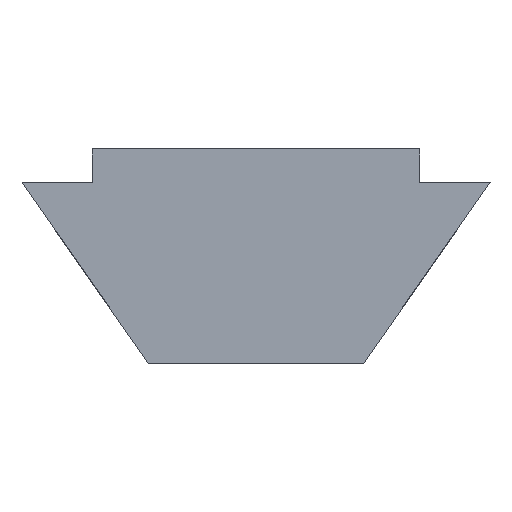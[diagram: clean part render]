
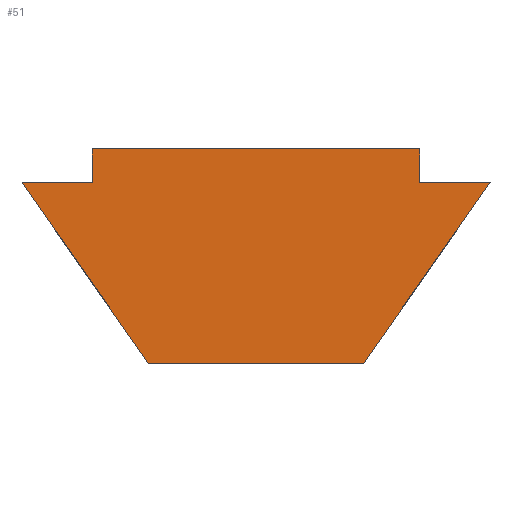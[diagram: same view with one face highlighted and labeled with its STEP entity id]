
A CAD part, left-side view. The second image highlights one B-rep face of the part: STEP entity #51.
In plain terms, the highlighted planar face has unit normal (-1, 0, 0) as drawn and (0, -1, 0) by its records, which use the part's own axes.
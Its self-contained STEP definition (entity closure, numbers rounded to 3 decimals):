
#51=ADVANCED_FACE('',(#77),#975,.T.);
#77=FACE_OUTER_BOUND('',#104,.T.);
#104=EDGE_LOOP('',(#162,#163,#164,#165,#166,#167,#168,#169));
#162=ORIENTED_EDGE('',*,*,#672,.F.);
#163=ORIENTED_EDGE('',*,*,#669,.F.);
#164=ORIENTED_EDGE('',*,*,#664,.F.);
#165=ORIENTED_EDGE('',*,*,#661,.F.);
#166=ORIENTED_EDGE('',*,*,#658,.F.);
#167=ORIENTED_EDGE('',*,*,#655,.F.);
#168=ORIENTED_EDGE('',*,*,#674,.T.);
#169=ORIENTED_EDGE('',*,*,#647,.F.);
#287=PCURVE('',#967,#431);
#296=PCURVE('',#969,#440);
#300=PCURVE('',#970,#444);
#304=PCURVE('',#971,#448);
#308=PCURVE('',#972,#452);
#314=PCURVE('',#973,#458);
#318=PCURVE('',#974,#462);
#322=PCURVE('',#975,#466);
#323=PCURVE('',#975,#467);
#324=PCURVE('',#975,#468);
#325=PCURVE('',#975,#469);
#326=PCURVE('',#975,#470);
#327=PCURVE('',#975,#471);
#328=PCURVE('',#975,#472);
#329=PCURVE('',#975,#473);
#346=PCURVE('',#968,#490);
#431=DEFINITIONAL_REPRESENTATION('',(#724),#1994);
#440=DEFINITIONAL_REPRESENTATION('',(#739),#1994);
#444=DEFINITIONAL_REPRESENTATION('',(#746),#1994);
#448=DEFINITIONAL_REPRESENTATION('',(#753),#1994);
#452=DEFINITIONAL_REPRESENTATION('',(#760),#1994);
#458=DEFINITIONAL_REPRESENTATION('',(#769),#1994);
#462=DEFINITIONAL_REPRESENTATION('',(#776),#1994);
#466=DEFINITIONAL_REPRESENTATION('',(#781),#1994);
#467=DEFINITIONAL_REPRESENTATION('',(#782),#1994);
#468=DEFINITIONAL_REPRESENTATION('',(#783),#1994);
#469=DEFINITIONAL_REPRESENTATION('',(#784),#1994);
#470=DEFINITIONAL_REPRESENTATION('',(#785),#1994);
#471=DEFINITIONAL_REPRESENTATION('',(#786),#1994);
#472=DEFINITIONAL_REPRESENTATION('',(#788),#1994);
#473=DEFINITIONAL_REPRESENTATION('',(#789),#1994);
#490=DEFINITIONAL_REPRESENTATION('',(#806),#1994);
#575=SURFACE_CURVE('',#723,(#287,#329),.PCURVE_S1.);
#583=SURFACE_CURVE('',#738,(#296,#327),.PCURVE_S1.);
#586=SURFACE_CURVE('',#745,(#300,#326),.PCURVE_S1.);
#589=SURFACE_CURVE('',#752,(#304,#325),.PCURVE_S1.);
#592=SURFACE_CURVE('',#759,(#308,#324),.PCURVE_S1.);
#597=SURFACE_CURVE('',#768,(#314,#323),.PCURVE_S1.);
#600=SURFACE_CURVE('',#775,(#318,#322),.PCURVE_S1.);
#602=SURFACE_CURVE('',#787,(#328,#346),.PCURVE_S1.);
#647=EDGE_CURVE('',#915,#916,#575,.T.);
#655=EDGE_CURVE('',#919,#921,#583,.T.);
#658=EDGE_CURVE('',#921,#923,#586,.T.);
#661=EDGE_CURVE('',#923,#925,#589,.T.);
#664=EDGE_CURVE('',#925,#927,#592,.T.);
#669=EDGE_CURVE('',#927,#929,#597,.T.);
#672=EDGE_CURVE('',#929,#915,#600,.T.);
#674=EDGE_CURVE('',#919,#916,#602,.T.);
#723=B_SPLINE_CURVE_WITH_KNOTS('',1,(#1196,#1197),.UNSPECIFIED.,.F.,.F.,
(2,2),(-3.906,0.),.UNSPECIFIED.);
#724=B_SPLINE_CURVE_WITH_KNOTS('',1,(#1198,#1199),.UNSPECIFIED.,.F.,.F.,
(2,2),(-3.906,0.),.UNSPECIFIED.);
#738=B_SPLINE_CURVE_WITH_KNOTS('',1,(#1272,#1273),.UNSPECIFIED.,.F.,.F.,
(2,2),(3.819,7.725),.UNSPECIFIED.);
#739=B_SPLINE_CURVE_WITH_KNOTS('',1,(#1274,#1275),.UNSPECIFIED.,.F.,.F.,
(2,2),(3.819,7.725),.UNSPECIFIED.);
#745=B_SPLINE_CURVE_WITH_KNOTS('',1,(#1286,#1287),.UNSPECIFIED.,.F.,.F.,
(2,2),(7.725,8.975),.UNSPECIFIED.);
#746=B_SPLINE_CURVE_WITH_KNOTS('',1,(#1288,#1289),.UNSPECIFIED.,.F.,.F.,
(2,2),(7.725,8.975),.UNSPECIFIED.);
#752=B_SPLINE_CURVE_WITH_KNOTS('',1,(#1300,#1301),.UNSPECIFIED.,.F.,.F.,
(2,2),(8.975,9.575),.UNSPECIFIED.);
#753=B_SPLINE_CURVE_WITH_KNOTS('',1,(#1302,#1303),.UNSPECIFIED.,.F.,.F.,
(2,2),(8.975,9.575),.UNSPECIFIED.);
#759=B_SPLINE_CURVE_WITH_KNOTS('',1,(#1314,#1315),.UNSPECIFIED.,.F.,.F.,
(2,2),(9.575,15.375),.UNSPECIFIED.);
#760=B_SPLINE_CURVE_WITH_KNOTS('',1,(#1316,#1317),.UNSPECIFIED.,.F.,.F.,
(2,2),(9.575,15.375),.UNSPECIFIED.);
#768=B_SPLINE_CURVE_WITH_KNOTS('',1,(#1388,#1389),.UNSPECIFIED.,.F.,.F.,
(2,2),(15.375,15.975),.UNSPECIFIED.);
#769=B_SPLINE_CURVE_WITH_KNOTS('',1,(#1390,#1391),.UNSPECIFIED.,.F.,.F.,
(2,2),(15.375,15.975),.UNSPECIFIED.);
#775=B_SPLINE_CURVE_WITH_KNOTS('',1,(#1402,#1403),.UNSPECIFIED.,.F.,.F.,
(2,2),(15.975,17.225),.UNSPECIFIED.);
#776=B_SPLINE_CURVE_WITH_KNOTS('',1,(#1404,#1405),.UNSPECIFIED.,.F.,.F.,
(2,2),(15.975,17.225),.UNSPECIFIED.);
#781=B_SPLINE_CURVE_WITH_KNOTS('',1,(#1414,#1415),.UNSPECIFIED.,.F.,.F.,
(2,2),(15.975,17.225),.UNSPECIFIED.);
#782=B_SPLINE_CURVE_WITH_KNOTS('',1,(#1416,#1417),.UNSPECIFIED.,.F.,.F.,
(2,2),(15.375,15.975),.UNSPECIFIED.);
#783=B_SPLINE_CURVE_WITH_KNOTS('',1,(#1418,#1419),.UNSPECIFIED.,.F.,.F.,
(2,2),(9.575,15.375),.UNSPECIFIED.);
#784=B_SPLINE_CURVE_WITH_KNOTS('',1,(#1420,#1421),.UNSPECIFIED.,.F.,.F.,
(2,2),(8.975,9.575),.UNSPECIFIED.);
#785=B_SPLINE_CURVE_WITH_KNOTS('',1,(#1422,#1423),.UNSPECIFIED.,.F.,.F.,
(2,2),(7.725,8.975),.UNSPECIFIED.);
#786=B_SPLINE_CURVE_WITH_KNOTS('',1,(#1424,#1425),.UNSPECIFIED.,.F.,.F.,
(2,2),(3.819,7.725),.UNSPECIFIED.);
#787=B_SPLINE_CURVE_WITH_KNOTS('',1,(#1426,#1427),.UNSPECIFIED.,.F.,.F.,
(2,2),(-3.819,0.),.UNSPECIFIED.);
#788=B_SPLINE_CURVE_WITH_KNOTS('',1,(#1428,#1429),.UNSPECIFIED.,.F.,.F.,
(2,2),(-3.819,0.),.UNSPECIFIED.);
#789=B_SPLINE_CURVE_WITH_KNOTS('',1,(#1430,#1431),.UNSPECIFIED.,.F.,.F.,
(2,2),(-3.906,0.),.UNSPECIFIED.);
#806=B_SPLINE_CURVE_WITH_KNOTS('',1,(#1493,#1494),.UNSPECIFIED.,.F.,.F.,
(2,2),(-3.819,0.),.UNSPECIFIED.);
#915=VERTEX_POINT('',#1126);
#916=VERTEX_POINT('',#1127);
#919=VERTEX_POINT('',#1130);
#921=VERTEX_POINT('',#1132);
#923=VERTEX_POINT('',#1134);
#925=VERTEX_POINT('',#1136);
#927=VERTEX_POINT('',#1138);
#929=VERTEX_POINT('',#1140);
#967=PLANE('',#1028);
#968=PLANE('',#1029);
#969=PLANE('',#1030);
#970=PLANE('',#1031);
#971=PLANE('',#1032);
#972=PLANE('',#1033);
#973=PLANE('',#1034);
#974=PLANE('',#1035);
#975=PLANE('',#1036);
#1028=AXIS2_PLACEMENT_3D('',#1080,#1054,$);
#1029=AXIS2_PLACEMENT_3D('',#1081,#1055,$);
#1030=AXIS2_PLACEMENT_3D('',#1082,#1056,$);
#1031=AXIS2_PLACEMENT_3D('',#1083,#1057,$);
#1032=AXIS2_PLACEMENT_3D('',#1084,#1058,$);
#1033=AXIS2_PLACEMENT_3D('',#1085,#1059,$);
#1034=AXIS2_PLACEMENT_3D('',#1086,#1060,$);
#1035=AXIS2_PLACEMENT_3D('',#1087,#1061,$);
#1036=AXIS2_PLACEMENT_3D('',#1124,#1062,$);
#1054=DIRECTION('',(-0.574,0.,-0.819));
#1055=DIRECTION('',(-1.,0.,0.));
#1056=DIRECTION('',(-0.574,0.,0.819));
#1057=DIRECTION('',(1.,0.,0.));
#1058=DIRECTION('',(0.,0.,1.));
#1059=DIRECTION('',(1.,0.,0.));
#1060=DIRECTION('',(0.,0.,-1.));
#1061=DIRECTION('',(1.,0.,0.));
#1062=DIRECTION('',(0.,-1.,0.));
#1080=CARTESIAN_POINT('',(-0.6,-11.,-4.15));
#1081=CARTESIAN_POINT('',(-3.8,-11.,-1.909));
#1082=CARTESIAN_POINT('',(-3.8,-11.,1.909));
#1083=CARTESIAN_POINT('',(-0.6,-11.,4.15));
#1084=CARTESIAN_POINT('',(-0.6,-11.,2.9));
#1085=CARTESIAN_POINT('',(0.,-11.,2.9));
#1086=CARTESIAN_POINT('',(0.,-11.,-2.9));
#1087=CARTESIAN_POINT('',(-0.6,-11.,-2.9));
#1124=CARTESIAN_POINT('',(-4.275,-11.,5.188));
#1126=CARTESIAN_POINT('',(-0.6,-11.,-4.15));
#1127=CARTESIAN_POINT('',(-3.8,-11.,-1.909));
#1130=CARTESIAN_POINT('',(-3.8,-11.,1.909));
#1132=CARTESIAN_POINT('',(-0.6,-11.,4.15));
#1134=CARTESIAN_POINT('',(-0.6,-11.,2.9));
#1136=CARTESIAN_POINT('',(0.,-11.,2.9));
#1138=CARTESIAN_POINT('',(0.,-11.,-2.9));
#1140=CARTESIAN_POINT('',(-0.6,-11.,-2.9));
#1196=CARTESIAN_POINT('',(-0.6,-11.,-4.15));
#1197=CARTESIAN_POINT('',(-3.8,-11.,-1.909));
#1198=CARTESIAN_POINT('',(-3.906,0.));
#1199=CARTESIAN_POINT('',(0.,0.));
#1272=CARTESIAN_POINT('',(-3.8,-11.,1.909));
#1273=CARTESIAN_POINT('',(-0.6,-11.,4.15));
#1274=CARTESIAN_POINT('',(3.819,0.));
#1275=CARTESIAN_POINT('',(7.725,0.));
#1286=CARTESIAN_POINT('',(-0.6,-11.,4.15));
#1287=CARTESIAN_POINT('',(-0.6,-11.,2.9));
#1288=CARTESIAN_POINT('',(7.725,0.));
#1289=CARTESIAN_POINT('',(8.975,0.));
#1300=CARTESIAN_POINT('',(-0.6,-11.,2.9));
#1301=CARTESIAN_POINT('',(0.,-11.,2.9));
#1302=CARTESIAN_POINT('',(8.975,0.));
#1303=CARTESIAN_POINT('',(9.575,0.));
#1314=CARTESIAN_POINT('',(0.,-11.,2.9));
#1315=CARTESIAN_POINT('',(0.,-11.,-2.9));
#1316=CARTESIAN_POINT('',(9.575,0.));
#1317=CARTESIAN_POINT('',(15.375,0.));
#1388=CARTESIAN_POINT('',(0.,-11.,-2.9));
#1389=CARTESIAN_POINT('',(-0.6,-11.,-2.9));
#1390=CARTESIAN_POINT('',(15.375,0.));
#1391=CARTESIAN_POINT('',(15.975,0.));
#1402=CARTESIAN_POINT('',(-0.6,-11.,-2.9));
#1403=CARTESIAN_POINT('',(-0.6,-11.,-4.15));
#1404=CARTESIAN_POINT('',(15.975,0.));
#1405=CARTESIAN_POINT('',(17.225,0.));
#1414=CARTESIAN_POINT('',(-1.25,0.));
#1415=CARTESIAN_POINT('',(0.,0.));
#1416=CARTESIAN_POINT('',(-1.25,0.6));
#1417=CARTESIAN_POINT('',(-1.25,0.));
#1418=CARTESIAN_POINT('',(-7.05,0.6));
#1419=CARTESIAN_POINT('',(-1.25,0.6));
#1420=CARTESIAN_POINT('',(-7.05,0.));
#1421=CARTESIAN_POINT('',(-7.05,0.6));
#1422=CARTESIAN_POINT('',(-8.3,0.));
#1423=CARTESIAN_POINT('',(-7.05,0.));
#1424=CARTESIAN_POINT('',(-6.059,-3.2));
#1425=CARTESIAN_POINT('',(-8.3,0.));
#1426=CARTESIAN_POINT('',(-3.8,-11.,1.909));
#1427=CARTESIAN_POINT('',(-3.8,-11.,-1.909));
#1428=CARTESIAN_POINT('',(-6.059,-3.2));
#1429=CARTESIAN_POINT('',(-2.241,-3.2));
#1430=CARTESIAN_POINT('',(0.,0.));
#1431=CARTESIAN_POINT('',(-2.241,-3.2));
#1493=CARTESIAN_POINT('',(3.819,0.));
#1494=CARTESIAN_POINT('',(0.,0.));
#1994=(
GEOMETRIC_REPRESENTATION_CONTEXT(2)
PARAMETRIC_REPRESENTATION_CONTEXT()
REPRESENTATION_CONTEXT('pspace','')
);
